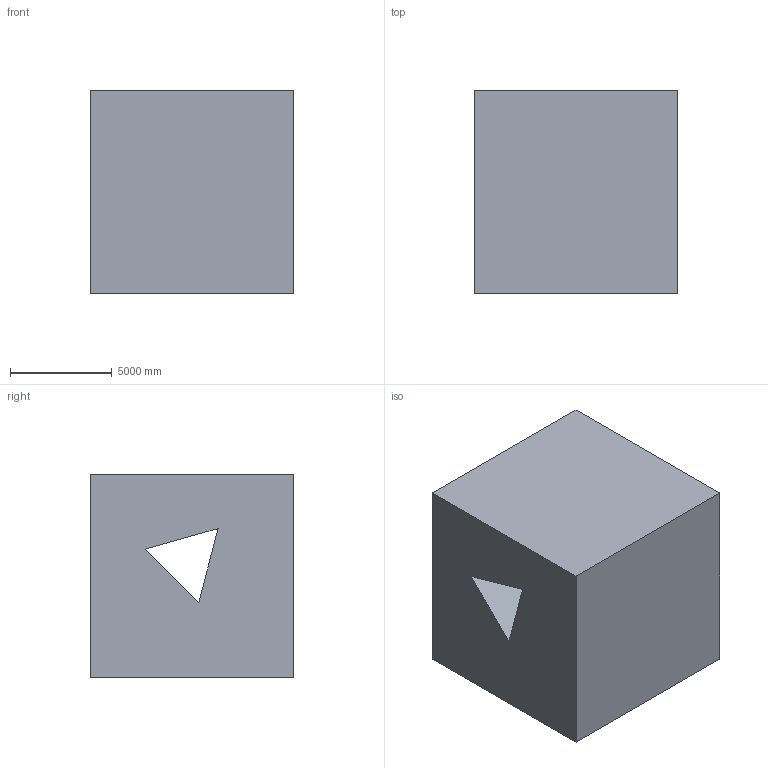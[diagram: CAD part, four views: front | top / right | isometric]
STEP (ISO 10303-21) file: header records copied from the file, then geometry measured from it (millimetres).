
FILE_DESCRIPTION (( 'STEP AP203' ), '1' );
FILE_NAME ('1095.STEP', '2022-08-18T12:44:26', ( 'user' ), ( '' ), 'SwSTEP 2.0', 'SolidWorks 2021', '' );
FILE_SCHEMA (( 'CONFIG_CONTROL_DESIGN' ));
Length unit declared in the file: centimetre
Products named in the file (1): 1095
Bounding box: 10000 x 10000 x 10000 mm (x, y, z)
Volume: 883995707484.8 mm3; surface area: 688011852 mm2
Topology: 1 solids, 1 shells, 11 faces, 27 edges, 18 vertices
Faces by surface type: plane 11
Entity records: 402 total; most frequent: CARTESIAN_POINT 57, ORIENTED_EDGE 54, DIRECTION 51, VECTOR 27, LINE 27, EDGE_CURVE 27, VERTEX_POINT 18, EDGE_LOOP 13
